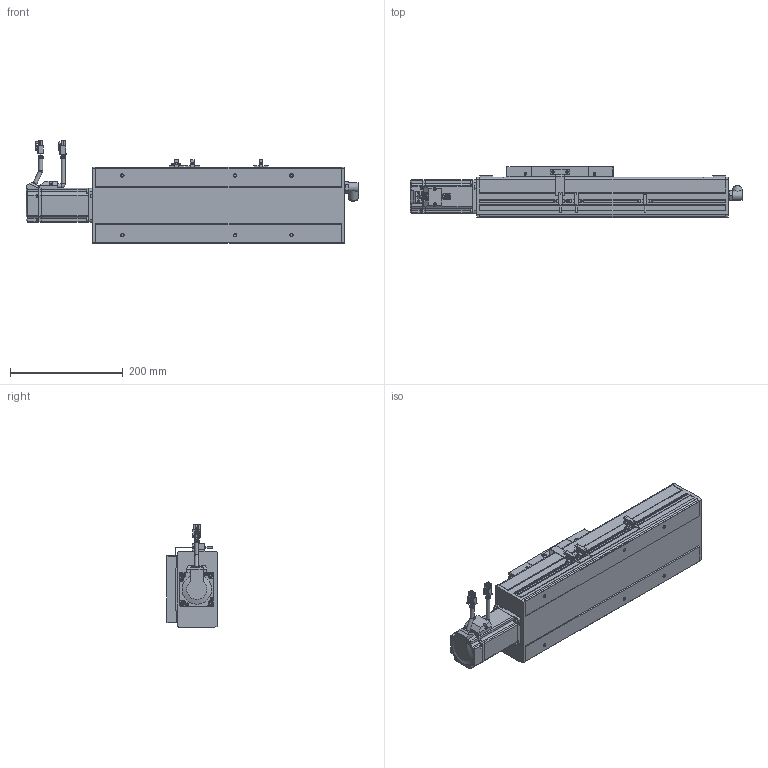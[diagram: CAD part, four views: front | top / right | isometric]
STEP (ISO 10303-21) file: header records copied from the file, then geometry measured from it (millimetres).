
FILE_DESCRIPTION(/* description */ ('STEP AP214'),/* implementation_level */ '2;1');
FILE_NAME(/* name */ 'PSC140-L05-S150-BC-P40-C1-N(0)',/* time_stamp */ '2022-06-13T03:12:47+02:00',/* author */ ('License CC BY-ND 4.0'),/* organization */ ('CADENAS'),/* preprocessor_version */ 'ST-DEVELOPER v18.102',/* originating_system */ 'PARTsolutions',/* authorisation */ ' ');
FILE_SCHEMA (('AUTOMOTIVE_DESIGN {1 0 10303 214 3 1 1}'));
Length unit declared in the file: millimetre
Products named in the file (10): PSC140-L05-S150-BC-P40-C1-N(0); P40-s2; P40-c2; P40-s1; P40-c1; P40-p1; PSC140-sensor; PSC140-BC-SLIDER; PSC140-S150-BC-P40-C1_BODY1; PSC140-L05-S150-BC-P40-C1-N(0)_dummy
Assembly tree (11 placements, depth 2):
  PSC140-L05-S150-BC-P40-C1-N(0)
    P40-s2
    P40-c2
    P40-s1
    P40-c1
    P40-p1
    PSC140-sensor  x3
    PSC140-BC-SLIDER
    PSC140-S150-BC-P40-C1_BODY1
    PSC140-L05-S150-BC-P40-C1-N(0)_dummy
Bounding box: 589 x 91 x 182.48 mm (x, y, z)
Volume: 4992490.8 mm3; surface area: 357346.5 mm2
Topology: 10 solids, 10 shells, 1232 faces, 3190 edges, 2109 vertices
Faces by surface type: plane 860, cylinder 311, cone 42, torus 19
Full cylindrical faces by diameter (mm): 1 x8, 2.6 x10, 2.8 x3, 3.3 x8, 4.5 x12, 4.6 x3, 4.917 x10, 5 x4, 5.5 x8, 6 x10, 6.08 x4, 7 x10, 9 x2, 10 x1, 11 x1, 13.74 x1, 14 x1, 16.4 x2, 16.5 x1, 19.98 x1, 31.98 x1, 35.5 x1, 50 x2
Entity records: 34118 total; most frequent: CARTESIAN_POINT 5965, DIRECTION 5731, ORIENTED_EDGE 5546, EDGE_CURVE 2773, LINE 2109, VECTOR 2109, VERTEX_POINT 1930, AXIS2_PLACEMENT_3D 1811
